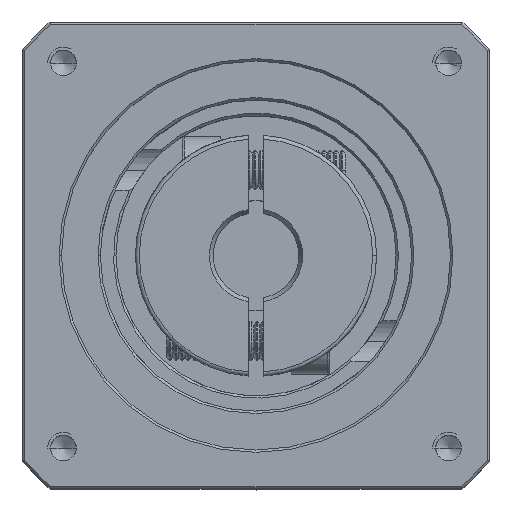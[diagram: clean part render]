
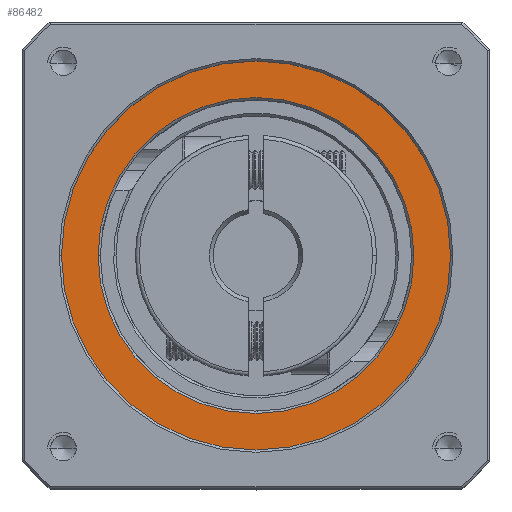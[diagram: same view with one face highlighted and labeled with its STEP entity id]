
A CAD part, top view. The second image highlights one B-rep face of the part: STEP entity #86482.
In plain terms, the highlighted planar face has unit normal (0, 0, 1).
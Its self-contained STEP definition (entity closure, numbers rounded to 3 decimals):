
#2101 = AXIS2_PLACEMENT_3D ( 'NONE', #89824, #40058, #98164 ) ;
#2554 = CARTESIAN_POINT ( 'NONE',  ( -54.416, 10.431, 30.713 ) ) ;
#6772 = VERTEX_POINT ( 'NONE', #41467 ) ;
#10253 = CIRCLE ( 'NONE', #97028, 25. ) ;
#11214 = FACE_BOUND ( 'NONE', #92704, .T. ) ;
#11732 = CARTESIAN_POINT ( 'NONE',  ( -49.716, 10.431, 30.713 ) ) ;
#12613 = CARTESIAN_POINT ( 'NONE',  ( -74.716, 10.431, 30.713 ) ) ;
#15448 = VERTEX_POINT ( 'NONE', #63532 ) ;
#17208 = EDGE_CURVE ( 'NONE', #107732, #15448, #93994, .T. ) ;
#19160 = EDGE_CURVE ( 'NONE', #6772, #84867, #10253, .T. ) ;
#20971 = DIRECTION ( 'NONE',  ( 1., 0., 0. ) ) ;
#25770 = AXIS2_PLACEMENT_3D ( 'NONE', #93395, #43617, #101756 ) ;
#27045 = CIRCLE ( 'NONE', #28508, 25. ) ;
#28508 = AXIS2_PLACEMENT_3D ( 'NONE', #90252, #40489, #98599 ) ;
#40058 = DIRECTION ( 'NONE',  ( 0., 0., -1. ) ) ;
#40330 = ORIENTED_EDGE ( 'NONE', *, *, #17208, .T. ) ;
#40489 = DIRECTION ( 'NONE',  ( 0., 0., 1. ) ) ;
#41467 = CARTESIAN_POINT ( 'NONE',  ( -99.716, 10.431, 30.713 ) ) ;
#43617 = DIRECTION ( 'NONE',  ( 0., 0., 1. ) ) ;
#45523 = ORIENTED_EDGE ( 'NONE', *, *, #85815, .T. ) ;
#45915 = AXIS2_PLACEMENT_3D ( 'NONE', #12613, #70718, #20971 ) ;
#48018 = ORIENTED_EDGE ( 'NONE', *, *, #98579, .T. ) ;
#49300 = CARTESIAN_POINT ( 'NONE',  ( -74.716, 10.431, 30.713 ) ) ;
#55553 = ORIENTED_EDGE ( 'NONE', *, *, #19160, .T. ) ;
#57696 = DIRECTION ( 'NONE',  ( 1., 0., 0. ) ) ;
#59966 = PLANE ( 'NONE',  #25770 ) ;
#63532 = CARTESIAN_POINT ( 'NONE',  ( -95.016, 10.431, 30.713 ) ) ;
#70718 = DIRECTION ( 'NONE',  ( 0., 0., -1. ) ) ;
#73227 = EDGE_LOOP ( 'NONE', ( #45523, #55553 ) ) ;
#74887 = FACE_OUTER_BOUND ( 'NONE', #73227, .T. ) ;
#84867 = VERTEX_POINT ( 'NONE', #11732 ) ;
#85815 = EDGE_CURVE ( 'NONE', #84867, #6772, #27045, .T. ) ;
#86482 = ADVANCED_FACE ( 'NONE', ( #11214, #74887 ), #59966, .T. ) ;
#89824 = CARTESIAN_POINT ( 'NONE',  ( -74.716, 10.431, 30.713 ) ) ;
#90252 = CARTESIAN_POINT ( 'NONE',  ( -74.716, 10.431, 30.713 ) ) ;
#92704 = EDGE_LOOP ( 'NONE', ( #40330, #48018 ) ) ;
#93395 = CARTESIAN_POINT ( 'NONE',  ( -74.716, 10.431, 30.713 ) ) ;
#93994 = CIRCLE ( 'NONE', #45915, 20.3 ) ;
#95530 = CIRCLE ( 'NONE', #2101, 20.3 ) ;
#97028 = AXIS2_PLACEMENT_3D ( 'NONE', #49300, #107477, #57696 ) ;
#98164 = DIRECTION ( 'NONE',  ( 1., 0., 0. ) ) ;
#98579 = EDGE_CURVE ( 'NONE', #15448, #107732, #95530, .T. ) ;
#98599 = DIRECTION ( 'NONE',  ( 1., 0., 0. ) ) ;
#101756 = DIRECTION ( 'NONE',  ( 1., 0., 0. ) ) ;
#107477 = DIRECTION ( 'NONE',  ( 0., 0., 1. ) ) ;
#107732 = VERTEX_POINT ( 'NONE', #2554 ) ;
